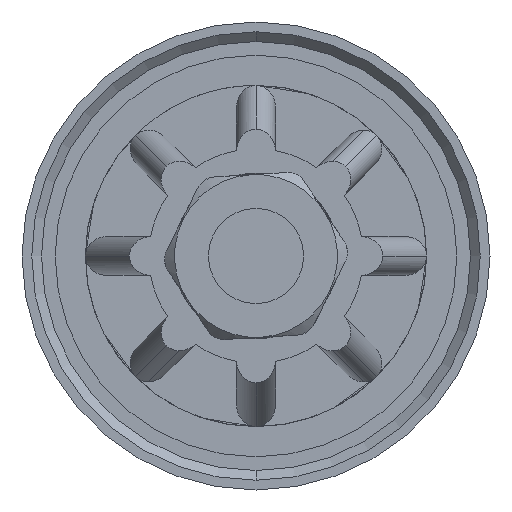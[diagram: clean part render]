
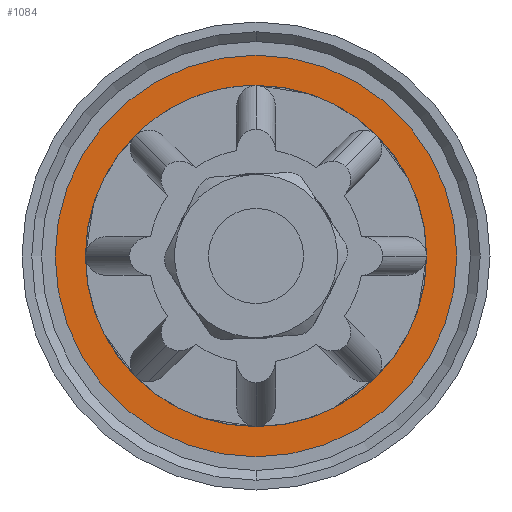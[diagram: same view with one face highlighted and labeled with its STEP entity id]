
A CAD part, front view. The second image highlights one B-rep face of the part: STEP entity #1084.
In plain terms, the highlighted planar face has unit normal (0, -1, 0).
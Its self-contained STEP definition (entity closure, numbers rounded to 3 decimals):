
#235 = VERTEX_POINT ( 'NONE', #2722 ) ;
#243 = EDGE_CURVE ( 'NONE', #235, #256, #2707, .T. ) ;
#256 = VERTEX_POINT ( 'NONE', #2501 ) ;
#604 = EDGE_CURVE ( 'NONE', #643, #652, #3358, .T. ) ;
#628 = EDGE_CURVE ( 'NONE', #652, #643, #3404, .T. ) ;
#643 = VERTEX_POINT ( 'NONE', #3389 ) ;
#652 = VERTEX_POINT ( 'NONE', #3424 ) ;
#712 = ORIENTED_EDGE ( 'NONE', *, *, #715, .T. ) ;
#715 = EDGE_CURVE ( 'NONE', #256, #235, #3549, .T. ) ;
#721 = EDGE_LOOP ( 'NONE', ( #712, #1078 ) ) ;
#727 = EDGE_LOOP ( 'NONE', ( #1091, #1080 ) ) ;
#1078 = ORIENTED_EDGE ( 'NONE', *, *, #243, .T. ) ;
#1080 = ORIENTED_EDGE ( 'NONE', *, *, #604, .F. ) ;
#1084 = ADVANCED_FACE ( 'NONE', ( #4355, #4354 ), #4351, .T. ) ;
#1091 = ORIENTED_EDGE ( 'NONE', *, *, #628, .F. ) ;
#2501 = CARTESIAN_POINT ( 'NONE',  ( 1.104, -12.273, -21.827 ) ) ;
#2701 = DIRECTION ( 'NONE',  ( 0., -1., 0. ) ) ;
#2702 = CARTESIAN_POINT ( 'NONE',  ( 1.104, -12.273, -1.227 ) ) ;
#2707 = CIRCLE ( 'NONE', #2716, 20.6 ) ;
#2716 = AXIS2_PLACEMENT_3D ( 'NONE', #2702, #2701, #2758 ) ;
#2722 = CARTESIAN_POINT ( 'NONE',  ( 1.104, -12.273, 19.373 ) ) ;
#2758 = DIRECTION ( 'NONE',  ( 0., 0., -1. ) ) ;
#3338 = CARTESIAN_POINT ( 'NONE',  ( 1.104, -12.273, -1.227 ) ) ;
#3357 = AXIS2_PLACEMENT_3D ( 'NONE', #3338, #3382, #3372 ) ;
#3358 = CIRCLE ( 'NONE', #3357, 17.5 ) ;
#3370 = AXIS2_PLACEMENT_3D ( 'NONE', #3399, #3397, #3393 ) ;
#3372 = DIRECTION ( 'NONE',  ( 0., 0., -1. ) ) ;
#3382 = DIRECTION ( 'NONE',  ( 0., -1., 0. ) ) ;
#3389 = CARTESIAN_POINT ( 'NONE',  ( 1.104, -12.273, 16.273 ) ) ;
#3393 = DIRECTION ( 'NONE',  ( 0., 0., -1. ) ) ;
#3397 = DIRECTION ( 'NONE',  ( 0., -1., 0. ) ) ;
#3399 = CARTESIAN_POINT ( 'NONE',  ( 1.104, -12.273, -1.227 ) ) ;
#3404 = CIRCLE ( 'NONE', #3370, 17.5 ) ;
#3424 = CARTESIAN_POINT ( 'NONE',  ( 1.104, -12.273, -18.727 ) ) ;
#3549 = CIRCLE ( 'NONE', #3555, 20.6 ) ;
#3555 = AXIS2_PLACEMENT_3D ( 'NONE', #3559, #3588, #3587 ) ;
#3559 = CARTESIAN_POINT ( 'NONE',  ( 1.104, -12.273, -1.227 ) ) ;
#3587 = DIRECTION ( 'NONE',  ( 0., 0., -1. ) ) ;
#3588 = DIRECTION ( 'NONE',  ( 0., -1., 0. ) ) ;
#4342 = DIRECTION ( 'NONE',  ( 0., 0., -1. ) ) ;
#4343 = DIRECTION ( 'NONE',  ( 0., -1., 0. ) ) ;
#4344 = CARTESIAN_POINT ( 'NONE',  ( -4.037, -12.273, -1.227 ) ) ;
#4345 = AXIS2_PLACEMENT_3D ( 'NONE', #4344, #4343, #4342 ) ;
#4351 = PLANE ( 'NONE',  #4345 ) ;
#4354 = FACE_BOUND ( 'NONE', #727, .T. ) ;
#4355 = FACE_OUTER_BOUND ( 'NONE', #721, .T. ) ;
